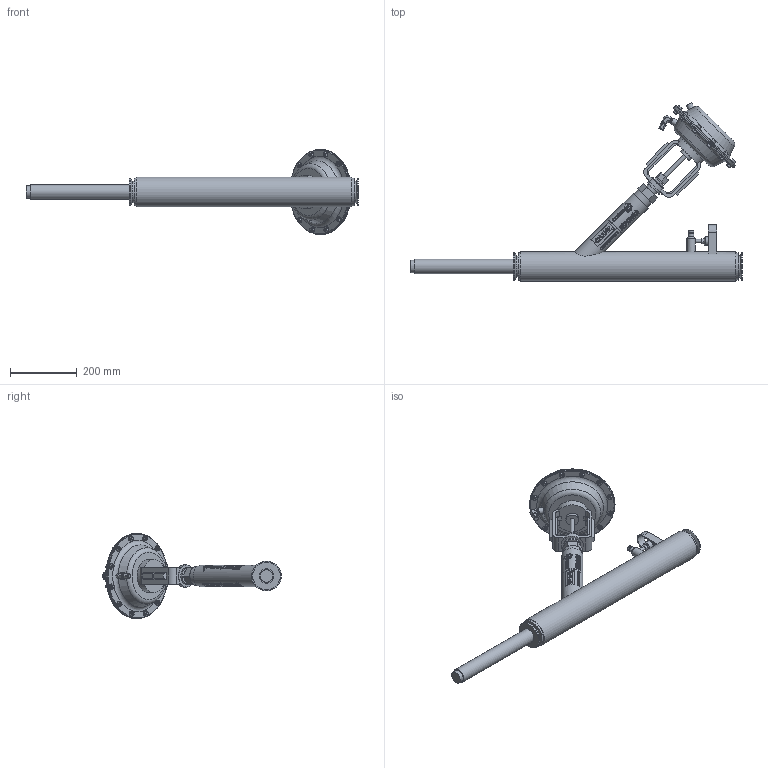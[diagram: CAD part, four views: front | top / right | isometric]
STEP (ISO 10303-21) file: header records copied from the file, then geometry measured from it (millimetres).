
FILE_DESCRIPTION (( 'STEP AP203' ), '1' );
FILE_NAME ('CA02500.step', '2025-12-17T20:04:04', ( '' ), ( '' ), 'SwSTEP 2.0', 'SolidWorks 2023', '' );
FILE_SCHEMA (( 'CONFIG_CONTROL_DESIGN' ));
Products named in the file (1): CA02500
Bounding box: 995.36 x 535.64 x 256.38 mm (x, y, z)
Volume: 8809127.8 mm3; surface area: 556528.3 mm2
Topology: 1 solids, 2 shells, 1651 faces, 4114 edges, 2730 vertices
Faces by surface type: plane 1073, cylinder 400, bspline 113, cone 47, torus 18
Full cylindrical faces by diameter (mm): 1.046 x2, 1.145 x2, 1.244 x2, 1.427 x2, 1.612 x2, 1.935 x4, 2.077 x2, 2.149 x2, 2.386 x2, 2.543 x2, 2.665 x2, 2.806 x2, 3.201 x2, 4.324 x2, 5.08 x1, 5.341 x2, 6.463 x2, 7.524 x2, 7.722 x1, 7.938 x1, 8.35 x12, 10.16 x1, 10.236 x1, 11.125 x1, 12.7 x1, 14.288 x1, 15.748 x2, 15.875 x24, 19.05 x2, 22.686 x1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
Entity records: 68965 total; most frequent: CARTESIAN_POINT 32824, ORIENTED_EDGE 7802, DIRECTION 6496, EDGE_CURVE 3901, VERTEX_POINT 2681, LINE 2192, VECTOR 2192, AXIS2_PLACEMENT_3D 2152
